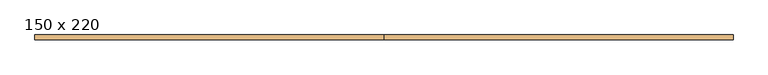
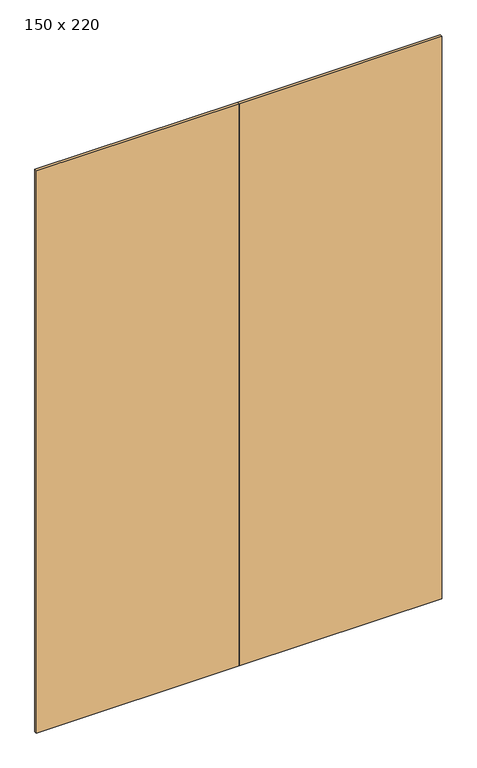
"""IFC4 building model written with IfcOpenShell, lengths in millimetres: door geometry, PORTA DE VIDRO PIVOTANTE - 2 FOLHAS : 150 x 220."""

from ifc_helpers import new_model, si_unit, origin, origin_with_axes, place, context, project, spatial, polyline, outline, extrude, source, transform, mapped, element, save


def door_150_x_220_60480f0c(model_context):
    return source(origin(), model_context, "Body", "SweptSolid", [
        extrude(outline(polyline([(80.0, 59.3424922), (80.0, 69.3424922), (830.0, 69.3424922), (830.0, 59.3424922), (80.0, 59.3424922)])), origin_with_axes(), (0.0, 0.0, 1.0), 2200.0),
        extrude(outline(polyline([(80.0, 59.3424922), (-670.0, 59.3424922), (-670.0, 69.3424922), (80.0, 69.3424922), (80.0, 59.3424922)])), origin_with_axes(), (0.0, 0.0, 1.0), 2200.0),
    ])


if __name__ == "__main__":
    model = new_model("IFC4")
    model_context = context("Model", 3, world=origin())
    ifc_project = project(units=[si_unit("LENGTHUNIT", "METRE", prefix="MILLI")], contexts=[model_context])
    site = spatial("IfcSite", under=ifc_project)
    building = spatial("IfcBuilding", under=site)
    placement = place(None, origin())
    door_150_x_220_shape = door_150_x_220_60480f0c(model_context)
    element("IfcDoor", 1, ObjectType="PORTA DE VIDRO PIVOTANTE - 2 FOLHAS : 150 x 220", at=placement, inside=building, context=model_context, shape_type="MappedRepresentation", body=[
        mapped(door_150_x_220_shape, transform((0.0, 0.0, 0.0), x_axis=(1.0, 0.0, 0.0), y_axis=(0.0, 1.0, 0.0), z_axis=(0.0, 0.0, 1.0))),
    ])
    save(model, "model.ifc")
